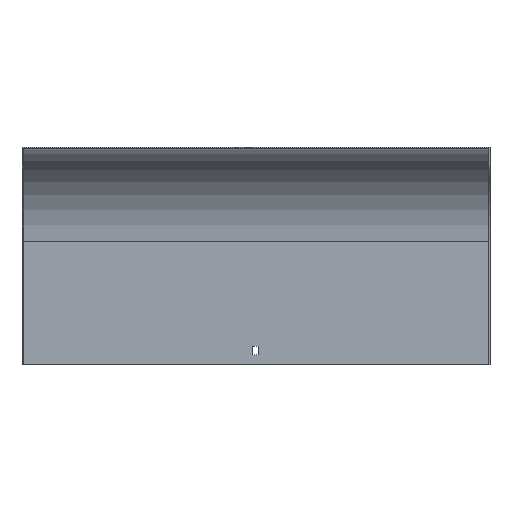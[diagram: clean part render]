
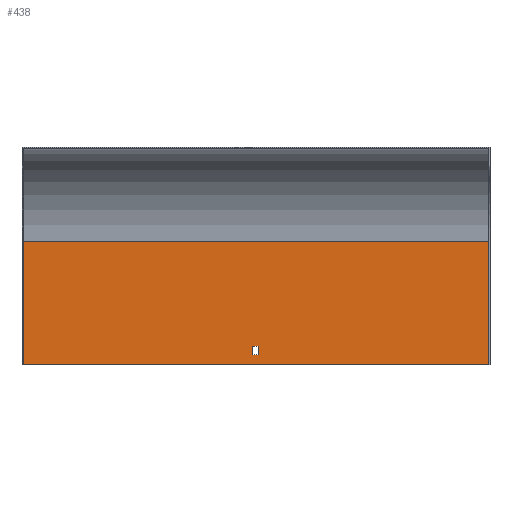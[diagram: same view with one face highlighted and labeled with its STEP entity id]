
A CAD part, top view. The second image highlights one B-rep face of the part: STEP entity #438.
In plain terms, the highlighted planar face has unit normal (0, 0, 1).
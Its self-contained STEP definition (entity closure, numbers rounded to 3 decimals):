
#8 = VECTOR ( 'NONE', #712, 1000. ) ;
#43 = VECTOR ( 'NONE', #661, 1000. ) ;
#45 = FACE_BOUND ( 'NONE', #304, .T. ) ;
#49 = DIRECTION ( 'NONE',  ( 1., 0., 0. ) ) ;
#76 = EDGE_CURVE ( 'NONE', #647, #503, #582, .T. ) ;
#88 = CARTESIAN_POINT ( 'NONE',  ( -252., -235.5, -234. ) ) ;
#100 = CARTESIAN_POINT ( 'NONE',  ( -3.25, -224.5, -234. ) ) ;
#107 = VECTOR ( 'NONE', #540, 1000. ) ;
#115 = CARTESIAN_POINT ( 'NONE',  ( -3.25, -101.5, -234. ) ) ;
#127 = ORIENTED_EDGE ( 'NONE', *, *, #496, .T. ) ;
#163 = DIRECTION ( 'NONE',  ( 0., 0., 1. ) ) ;
#170 = VERTEX_POINT ( 'NONE', #847 ) ;
#238 = EDGE_LOOP ( 'NONE', ( #458, #539, #783, #286 ) ) ;
#242 = LINE ( 'NONE', #389, #774 ) ;
#256 = CARTESIAN_POINT ( 'NONE',  ( 3.25, -215.5, -234. ) ) ;
#264 = CARTESIAN_POINT ( 'NONE',  ( -3.25, -215.5, -234. ) ) ;
#274 = ORIENTED_EDGE ( 'NONE', *, *, #76, .T. ) ;
#286 = ORIENTED_EDGE ( 'NONE', *, *, #471, .T. ) ;
#292 = LINE ( 'NONE', #568, #107 ) ;
#300 = LINE ( 'NONE', #844, #8 ) ;
#301 = PLANE ( 'NONE',  #771 ) ;
#304 = EDGE_LOOP ( 'NONE', ( #350, #693, #274, #127 ) ) ;
#322 = LINE ( 'NONE', #593, #624 ) ;
#337 = VERTEX_POINT ( 'NONE', #348 ) ;
#348 = CARTESIAN_POINT ( 'NONE',  ( 252., -101.5, -234. ) ) ;
#350 = ORIENTED_EDGE ( 'NONE', *, *, #733, .T. ) ;
#355 = CARTESIAN_POINT ( 'NONE',  ( 3.25, -224.5, -234. ) ) ;
#372 = VERTEX_POINT ( 'NONE', #100 ) ;
#389 = CARTESIAN_POINT ( 'NONE',  ( 3.25, -101.5, -234. ) ) ;
#436 = LINE ( 'NONE', #734, #43 ) ;
#438 = ADVANCED_FACE ( 'NONE', ( #581, #45 ), #301, .T. ) ;
#458 = ORIENTED_EDGE ( 'NONE', *, *, #779, .F. ) ;
#464 = LINE ( 'NONE', #727, #669 ) ;
#471 = EDGE_CURVE ( 'NONE', #337, #585, #292, .T. ) ;
#496 = EDGE_CURVE ( 'NONE', #503, #652, #242, .T. ) ;
#503 = VERTEX_POINT ( 'NONE', #256 ) ;
#515 = LINE ( 'NONE', #115, #858 ) ;
#539 = ORIENTED_EDGE ( 'NONE', *, *, #704, .F. ) ;
#540 = DIRECTION ( 'NONE',  ( -1., 0., 0. ) ) ;
#558 = VERTEX_POINT ( 'NONE', #88 ) ;
#568 = CARTESIAN_POINT ( 'NONE',  ( 253.5, -101.5, -234. ) ) ;
#581 = FACE_OUTER_BOUND ( 'NONE', #238, .T. ) ;
#582 = LINE ( 'NONE', #737, #630 ) ;
#585 = VERTEX_POINT ( 'NONE', #765 ) ;
#593 = CARTESIAN_POINT ( 'NONE',  ( -252., -101.5, -234. ) ) ;
#624 = VECTOR ( 'NONE', #665, 1000. ) ;
#630 = VECTOR ( 'NONE', #756, 1000. ) ;
#647 = VERTEX_POINT ( 'NONE', #264 ) ;
#652 = VERTEX_POINT ( 'NONE', #355 ) ;
#659 = DIRECTION ( 'NONE',  ( 0., -1., 0. ) ) ;
#661 = DIRECTION ( 'NONE',  ( -1., 0., 0. ) ) ;
#665 = DIRECTION ( 'NONE',  ( 0., 1., 0. ) ) ;
#669 = VECTOR ( 'NONE', #813, 1000. ) ;
#679 = EDGE_CURVE ( 'NONE', #372, #647, #515, .T. ) ;
#693 = ORIENTED_EDGE ( 'NONE', *, *, #679, .T. ) ;
#704 = EDGE_CURVE ( 'NONE', #170, #558, #300, .T. ) ;
#705 = DIRECTION ( 'NONE',  ( 0., 1., 0. ) ) ;
#711 = CARTESIAN_POINT ( 'NONE',  ( 253.5, -101.5, -234. ) ) ;
#712 = DIRECTION ( 'NONE',  ( -1., 0., 0. ) ) ;
#727 = CARTESIAN_POINT ( 'NONE',  ( 252., -101.5, -234. ) ) ;
#733 = EDGE_CURVE ( 'NONE', #652, #372, #436, .T. ) ;
#734 = CARTESIAN_POINT ( 'NONE',  ( 253.5, -224.5, -234. ) ) ;
#737 = CARTESIAN_POINT ( 'NONE',  ( 253.5, -215.5, -234. ) ) ;
#742 = EDGE_CURVE ( 'NONE', #170, #337, #464, .T. ) ;
#756 = DIRECTION ( 'NONE',  ( 1., 0., 0. ) ) ;
#765 = CARTESIAN_POINT ( 'NONE',  ( -252., -101.5, -234. ) ) ;
#771 = AXIS2_PLACEMENT_3D ( 'NONE', #711, #163, #49 ) ;
#774 = VECTOR ( 'NONE', #659, 1000. ) ;
#779 = EDGE_CURVE ( 'NONE', #558, #585, #322, .T. ) ;
#783 = ORIENTED_EDGE ( 'NONE', *, *, #742, .T. ) ;
#813 = DIRECTION ( 'NONE',  ( 0., 1., 0. ) ) ;
#844 = CARTESIAN_POINT ( 'NONE',  ( 253.5, -235.5, -234. ) ) ;
#847 = CARTESIAN_POINT ( 'NONE',  ( 252., -235.5, -234. ) ) ;
#858 = VECTOR ( 'NONE', #705, 1000. ) ;
